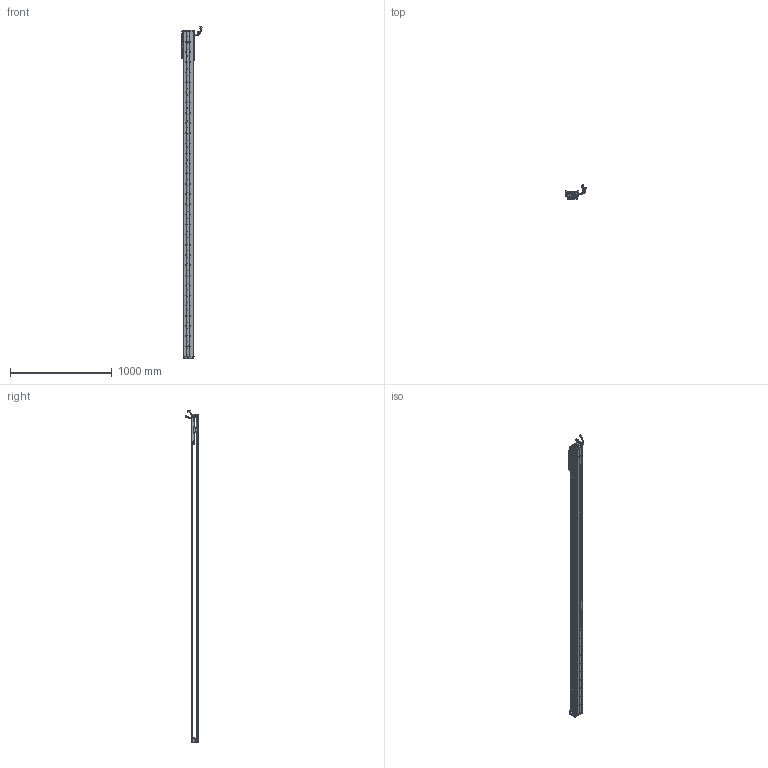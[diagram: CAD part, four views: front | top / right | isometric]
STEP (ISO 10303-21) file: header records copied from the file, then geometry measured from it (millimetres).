
FILE_DESCRIPTION (( 'STEP AP203' ), '1' );
FILE_NAME ('Z3-RY100D-1-L500-B-K.SLDASM_2900.step', '2021-05-17T02:53:10', ( '盈信电脑' ), ( '东莞市道滘镇水果街19号' ), 'SwSTEP 2.0', 'SolidWorks 2016', '' );
FILE_SCHEMA (( 'CONFIG_CONTROL_DESIGN' ));
Length unit declared in the file: millimetre
Products named in the file (36): 榋妏寠巭燃_暯_M2_2; SCREW-M1.7; Z3-RY100D-500-倰第菁釱_2900; LABEL-Part-1; SCREW-M1.6-1; SCREW-M1.6; COVER; PSLH080_PSLF2; HOLDER0; SEAL-Part-1; Z3-RY100-L500詩湍90mm遵_2900; 覜茼ん672; COVER-Part-1; HARNESS; 080黍杅芛假蚾釱21遴; 140雄赽晤鎢ん堤盄; Z-RY100D詩湍奻揤裔; 100-Z-臏賑輸盄裔(21遴); Z-100詩湍傷裔啣; SCREW-M1.7-1; 140蚥薯蝶輸; Z-RY100D覜茼んえ; SCALE-Part-2; SHIELDPLATE; SCALE; Z3-RY100D-1-L500-B-K.SLDASM_2900; Z-RY100D詩湍狟揤裔; SCREW-M1.6-3; SCALE-Part-1; LABEL; HARNESS-Part-1; SCREW-M1.6-2; HARNESS-Part-2; Z3-RY100铝滑块（21款）; PBU_SHEET; SEAL
Assembly tree (43 placements, depth 4):
  Z3-RY100D-1-L500-B-K.SLDASM_2900
    Z3-RY100D-500-倰第菁釱_2900
    Z3-RY100铝滑块（21款）
    PSLH080_PSLF2
      SCALE
        SCALE-Part-1
        SCALE-Part-2
      HARNESS
        HARNESS-Part-1
        HARNESS-Part-2
      LABEL
        LABEL-Part-1
      COVER
        COVER-Part-1
      SEAL
        SEAL-Part-1
      榋妏寠巭燃_暯_M2_2
      SHIELDPLATE
      SCREW-M1.7
      SCREW-M1.7-1
      PBU_SHEET
      SCREW-M1.6
      SCREW-M1.6-1
      SCREW-M1.6-2
      SCREW-M1.6-3
      HOLDER0
    080黍杅芛假蚾釱21遴
    Z-100詩湍傷裔啣  x2
    140蚥薯蝶輸  x2
    覜茼ん672  x3
    Z-RY100D覜茼んえ  x3
    100-Z-臏賑輸盄裔(21遴)
    140雄赽晤鎢ん堤盄
    Z3-RY100-L500詩湍90mm遵_2900
    Z-RY100D詩湍狟揤裔  x2
    Z-RY100D詩湍奻揤裔  x2
Bounding box: 205.79 x 136.11 x 3270.43 mm (x, y, z)
Volume: 5857836.8 mm3; surface area: 2317100.6 mm2
Topology: 38 solids, 38 shells, 3153 faces, 8701 edges, 5568 vertices
Faces by surface type: cylinder 1602, plane 1203, cone 226, torus 69, bspline 53
Entity records: 92895 total; most frequent: CARTESIAN_POINT 19413, DIRECTION 15055, ORIENTED_EDGE 14282, EDGE_CURVE 7141, AXIS2_PLACEMENT_3D 5694, VERTEX_POINT 4636, LINE 3667, VECTOR 3667
